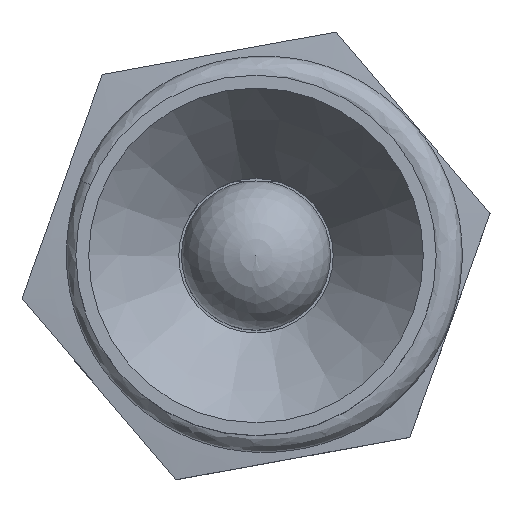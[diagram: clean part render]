
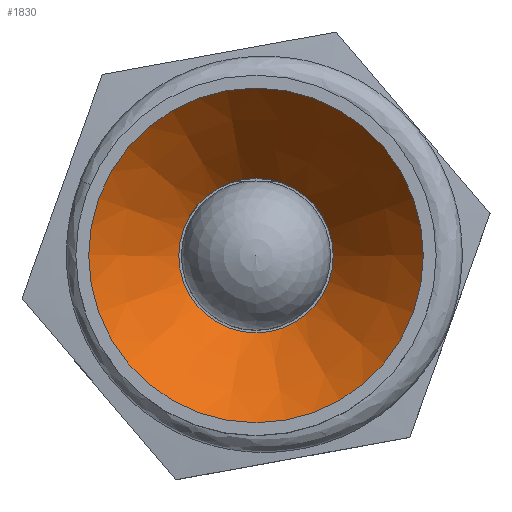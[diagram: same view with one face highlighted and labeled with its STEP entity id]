
A CAD part, top view. The second image highlights one B-rep face of the part: STEP entity #1830.
In plain terms, the highlighted conical face has half-angle 37.875 degrees and reference radius 3.25 mm.
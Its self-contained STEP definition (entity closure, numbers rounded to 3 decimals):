
#358=CONICAL_SURFACE('',#2057,3.25,0.661);
#756=ORIENTED_EDGE('',*,*,#1033,.T.);
#757=ORIENTED_EDGE('',*,*,#1031,.F.);
#1031=EDGE_CURVE('',#1218,#1218,#1338,.T.);
#1033=EDGE_CURVE('',#1220,#1220,#1340,.T.);
#1218=VERTEX_POINT('',#3072);
#1220=VERTEX_POINT('',#3077);
#1338=CIRCLE('',#2033,3.25);
#1340=CIRCLE('',#2036,1.5);
#1473=EDGE_LOOP('',(#756));
#1474=EDGE_LOOP('',(#757));
#1629=FACE_BOUND('',#1473,.T.);
#1630=FACE_BOUND('',#1474,.T.);
#1830=ADVANCED_FACE('',(#1629,#1630),#358,.F.);
#2033=AXIS2_PLACEMENT_3D('',#3071,#2480,#2481);
#2036=AXIS2_PLACEMENT_3D('',#3076,#2486,#2487);
#2057=AXIS2_PLACEMENT_3D('',#5470,#2528,#2529);
#2480=DIRECTION('',(0.,0.,-1.));
#2481=DIRECTION('',(-1.,0.,0.));
#2486=DIRECTION('',(0.,0.,-1.));
#2487=DIRECTION('',(-1.,0.,0.));
#2528=DIRECTION('',(0.,0.,1.));
#2529=DIRECTION('',(1.,0.,0.));
#3071=CARTESIAN_POINT('',(0.,0.,11.5));
#3072=CARTESIAN_POINT('',(-3.25,0.,11.5));
#3076=CARTESIAN_POINT('',(0.,0.,9.25));
#3077=CARTESIAN_POINT('',(-1.5,0.,9.25));
#5470=CARTESIAN_POINT('',(0.,0.,11.5));
